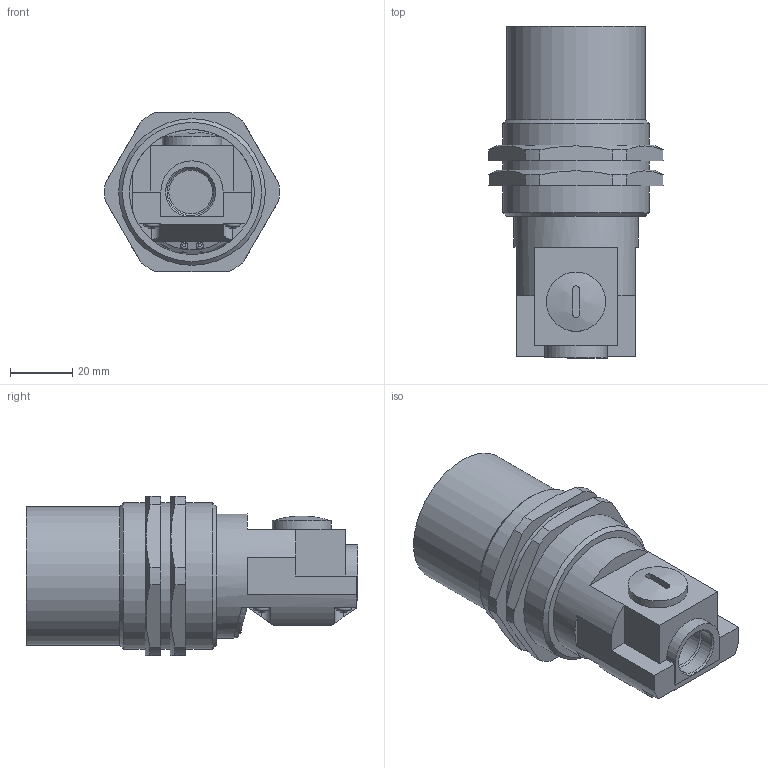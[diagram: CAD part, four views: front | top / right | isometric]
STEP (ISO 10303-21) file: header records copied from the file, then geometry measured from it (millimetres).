
FILE_DESCRIPTION((''),'2;1');
FILE_NAME('C:\TurckZip\Ni-G47SR-X2.stp','2009-03-30T11:12:52',('IKOROL'),(''),'Autodesk Inventor 2009','Autodesk Inventor 2009','');
FILE_SCHEMA(('CONFIG_CONTROL_DESIGN'));
Length unit declared in the file: millimetre
Products named in the file (1): Part15
Bounding box: 55.97 x 106.4 x 51 mm (x, y, z)
Volume: 147717.8 mm3; surface area: 21177.7 mm2
Topology: 1 solids, 6 shells, 464 faces, 1264 edges, 829 vertices
Faces by surface type: plane 324, cone 68, cylinder 42, torus 20, sphere 5, bspline 5
Full cylindrical faces by diameter (mm): 2.224 x4, 2.5 x4, 3 x4, 5 x1, 14 x1, 15 x1, 19 x1, 40 x1, 44.6 x1, 47 x3
Entity records: 15628 total; most frequent: CARTESIAN_POINT 3888, ORIENTED_EDGE 2402, DIRECTION 2191, EDGE_CURVE 1201, VERTEX_POINT 811, AXIS2_PLACEMENT_3D 732, VECTOR 727, LINE 727
